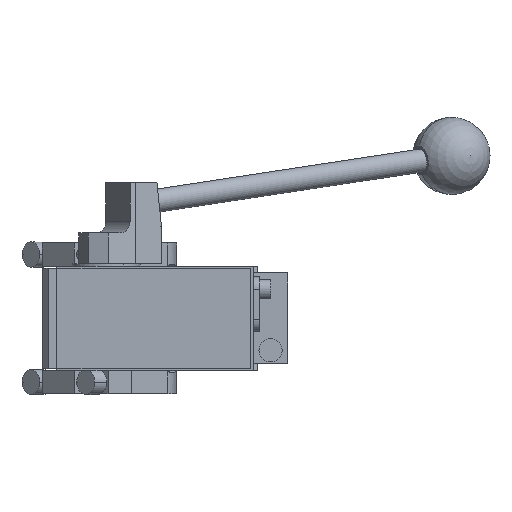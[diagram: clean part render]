
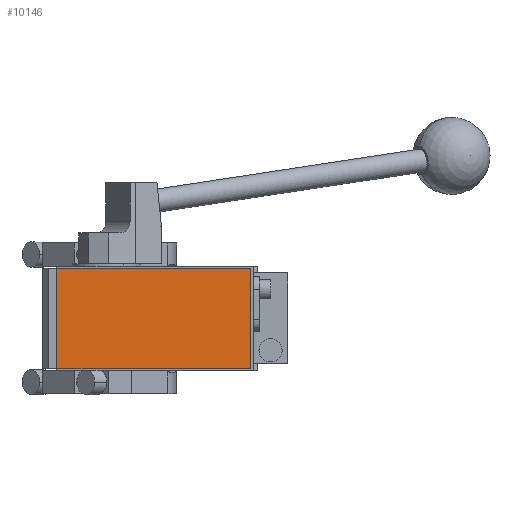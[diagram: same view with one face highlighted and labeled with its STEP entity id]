
A CAD part, front view. The second image highlights one B-rep face of the part: STEP entity #10146.
In plain terms, the highlighted planar face has unit normal (0, -1, 0).
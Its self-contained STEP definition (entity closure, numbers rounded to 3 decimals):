
#862 = VECTOR ( 'NONE', #13283, 1000. ) ;
#864 = FACE_OUTER_BOUND ( 'NONE', #3514, .T. ) ;
#3514 = EDGE_LOOP ( 'NONE', ( #11899, #10256, #4211, #10605 ) ) ;
#3594 = VECTOR ( 'NONE', #8109, 1000. ) ;
#3606 = CARTESIAN_POINT ( 'NONE',  ( -19., -286.5, 26. ) ) ;
#3854 = DIRECTION ( 'NONE',  ( 0., 0., -1. ) ) ;
#4211 = ORIENTED_EDGE ( 'NONE', *, *, #13543, .T. ) ;
#5035 = CARTESIAN_POINT ( 'NONE',  ( 81., -286.5, 26. ) ) ;
#5103 = VERTEX_POINT ( 'NONE', #12128 ) ;
#5351 = VERTEX_POINT ( 'NONE', #5035 ) ;
#5550 = DIRECTION ( 'NONE',  ( 0., -1., 0. ) ) ;
#5716 = VECTOR ( 'NONE', #3854, 1000. ) ;
#5836 = EDGE_CURVE ( 'NONE', #5351, #15049, #14417, .T. ) ;
#5879 = CARTESIAN_POINT ( 'NONE',  ( 81., -286.5, 26. ) ) ;
#6304 = AXIS2_PLACEMENT_3D ( 'NONE', #7734, #5550, #10014 ) ;
#6456 = VECTOR ( 'NONE', #10430, 1000. ) ;
#6902 = EDGE_CURVE ( 'NONE', #5103, #13329, #7820, .T. ) ;
#7734 = CARTESIAN_POINT ( 'NONE',  ( 0., -286.5, 0. ) ) ;
#7820 = LINE ( 'NONE', #12457, #3594 ) ;
#8109 = DIRECTION ( 'NONE',  ( 1., 0., 0. ) ) ;
#8623 = CARTESIAN_POINT ( 'NONE',  ( -19., -286.5, 26. ) ) ;
#8860 = PLANE ( 'NONE',  #6304 ) ;
#9196 = LINE ( 'NONE', #5879, #6456 ) ;
#10014 = DIRECTION ( 'NONE',  ( 0., 0., -1. ) ) ;
#10146 = ADVANCED_FACE ( 'NONE', ( #864 ), #8860, .T. ) ;
#10256 = ORIENTED_EDGE ( 'NONE', *, *, #6902, .T. ) ;
#10430 = DIRECTION ( 'NONE',  ( 0., 0., 1. ) ) ;
#10605 = ORIENTED_EDGE ( 'NONE', *, *, #5836, .T. ) ;
#10988 = CARTESIAN_POINT ( 'NONE',  ( -19., -286.5, 26. ) ) ;
#11899 = ORIENTED_EDGE ( 'NONE', *, *, #13080, .T. ) ;
#11973 = LINE ( 'NONE', #10988, #5716 ) ;
#12031 = CARTESIAN_POINT ( 'NONE',  ( 81., -286.5, -26. ) ) ;
#12128 = CARTESIAN_POINT ( 'NONE',  ( -19., -286.5, -26. ) ) ;
#12457 = CARTESIAN_POINT ( 'NONE',  ( -19., -286.5, -26. ) ) ;
#13080 = EDGE_CURVE ( 'NONE', #15049, #5103, #11973, .T. ) ;
#13283 = DIRECTION ( 'NONE',  ( -1., 0., 0. ) ) ;
#13329 = VERTEX_POINT ( 'NONE', #12031 ) ;
#13543 = EDGE_CURVE ( 'NONE', #13329, #5351, #9196, .T. ) ;
#14417 = LINE ( 'NONE', #8623, #862 ) ;
#15049 = VERTEX_POINT ( 'NONE', #3606 ) ;
